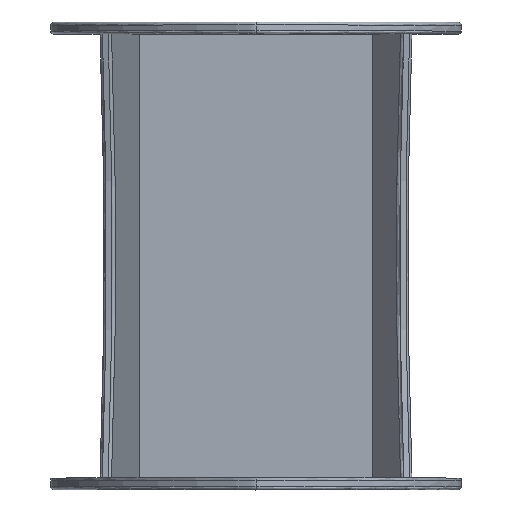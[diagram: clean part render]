
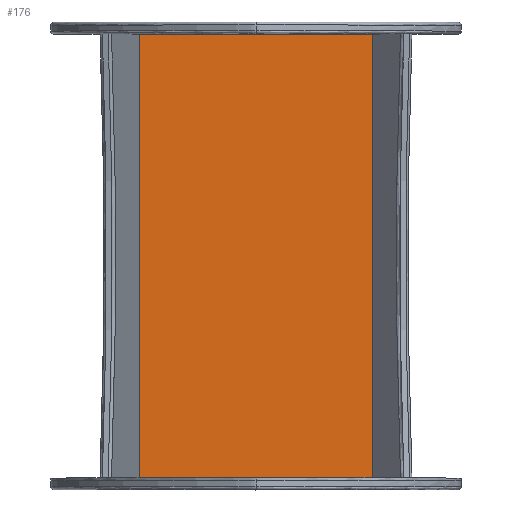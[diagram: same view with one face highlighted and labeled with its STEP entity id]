
A CAD part, top view. The second image highlights one B-rep face of the part: STEP entity #176.
In plain terms, the highlighted free-form (B-spline) face has degree [1, 1] with [2, 2] control points.
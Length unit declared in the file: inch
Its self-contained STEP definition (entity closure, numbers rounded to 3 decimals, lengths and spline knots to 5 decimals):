
#99 = CARTESIAN_POINT ('', (-5.20909, -0.25, 0.121));
#100 = VERTEX_POINT ('', #99);
#115 = CARTESIAN_POINT ('', (5.20909, -0.25, 0.121));
#116 = VERTEX_POINT ('', #115);
#122 = CARTESIAN_POINT ('', (5.20909, -0.25, 0.121));
#123 = CARTESIAN_POINT ('', (-5.20909, -0.25, 0.121));
#124 = B_SPLINE_CURVE_WITH_KNOTS ('', 1, (#122, #123), .UNSPECIFIED., .F., .U., (2, 2), (10.66819, 21.08637), .UNSPECIFIED.);
#125 = EDGE_CURVE ('', #116, #100, #124, .T.);
#135 = CARTESIAN_POINT ('', (-5.20909, 0., 0.121));
#136 = VERTEX_POINT ('', #135);
#137 = CARTESIAN_POINT ('', (-5.20909, 19.25, 0.121));
#138 = VERTEX_POINT ('', #137);
#139 = CARTESIAN_POINT ('', (-5.20909, 0., 0.121));
#140 = CARTESIAN_POINT ('', (-5.20909, 19.25, 0.121));
#141 = B_SPLINE_CURVE_WITH_KNOTS ('', 1, (#139, #140), .UNSPECIFIED., .F., .U., (2, 2), (0., 1.), .UNSPECIFIED.);
#142 = EDGE_CURVE ('', #136, #138, #141, .T.);
#143 = ORIENTED_EDGE ('', *, *, #142, .F.);
#144 = CARTESIAN_POINT ('', (-5.20909, 0., 0.121));
#145 = CARTESIAN_POINT ('', (-5.20909, -0.25, 0.121));
#146 = B_SPLINE_CURVE_WITH_KNOTS ('', 1, (#144, #145), .UNSPECIFIED., .F., .U., (2, 2), (0., 1.), .UNSPECIFIED.);
#147 = EDGE_CURVE ('', #136, #100, #146, .T.);
#148 = ORIENTED_EDGE ('', *, *, #147, .T.);
#149 = ORIENTED_EDGE ('', *, *, #125, .F.);
#150 = CARTESIAN_POINT ('', (5.20909, 0., 0.121));
#151 = VERTEX_POINT ('', #150);
#152 = CARTESIAN_POINT ('', (5.20909, 0., 0.121));
#153 = CARTESIAN_POINT ('', (5.20909, -0.25, 0.121));
#154 = B_SPLINE_CURVE_WITH_KNOTS ('', 1, (#152, #153), .UNSPECIFIED., .F., .U., (2, 2), (0., 1.), .UNSPECIFIED.);
#155 = EDGE_CURVE ('', #151, #116, #154, .T.);
#156 = ORIENTED_EDGE ('', *, *, #155, .F.);
#157 = CARTESIAN_POINT ('', (5.20909, 19.25, 0.121));
#158 = VERTEX_POINT ('', #157);
#159 = CARTESIAN_POINT ('', (5.20909, 0., 0.121));
#160 = CARTESIAN_POINT ('', (5.20909, 19.25, 0.121));
#161 = B_SPLINE_CURVE_WITH_KNOTS ('', 1, (#159, #160), .UNSPECIFIED., .F., .U., (2, 2), (0., 1.), .UNSPECIFIED.);
#162 = EDGE_CURVE ('', #151, #158, #161, .T.);
#163 = ORIENTED_EDGE ('', *, *, #162, .T.);
#164 = CARTESIAN_POINT ('', (5.20909, 19.25, 0.121));
#165 = CARTESIAN_POINT ('', (-5.20909, 19.25, 0.121));
#166 = B_SPLINE_CURVE_WITH_KNOTS ('', 1, (#164, #165), .UNSPECIFIED., .F., .U., (2, 2), (10.66819, 21.08637), .UNSPECIFIED.);
#167 = EDGE_CURVE ('', #158, #138, #166, .T.);
#168 = ORIENTED_EDGE ('', *, *, #167, .T.);
#169 = EDGE_LOOP ('', (#143, #148, #149, #156, #163, #168));
#170 = FACE_OUTER_BOUND ('', #169, .T.);
#171 = CARTESIAN_POINT ('', (5.20909, -0.25, 0.121));
#172 = CARTESIAN_POINT ('', (-5.20909, -0.25, 0.121));
#173 = CARTESIAN_POINT ('', (5.20909, 19.25, 0.121));
#174 = CARTESIAN_POINT ('', (-5.20909, 19.25, 0.121));
#175 = B_SPLINE_SURFACE_WITH_KNOTS ('', 1, 1, ((#171, #172), (#173, #174)), .UNSPECIFIED., .F., .F., .U., (2, 2), (2, 2), (-77., 1.), (10.66819, 21.08637), .UNSPECIFIED.);
#176 = ADVANCED_FACE ('', (#170), #175, .T.);
